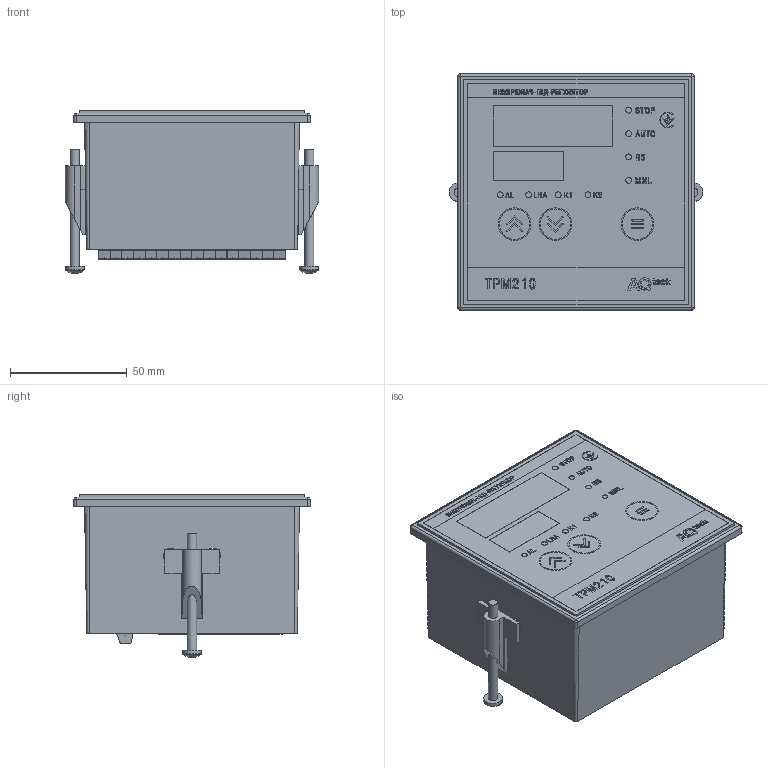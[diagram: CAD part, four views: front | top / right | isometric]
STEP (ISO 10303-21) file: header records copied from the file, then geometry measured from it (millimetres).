
FILE_DESCRIPTION (( 'STEP AP214' ), '1' );
FILE_NAME ('ﾒﾐﾌ210-ﾙ1.PP [U03].STEP', '2025-01-20T14:21:55', ( '' ), ( '' ), 'SwSTEP 2.0', 'SolidWorks 2019', '' );
FILE_SCHEMA (( 'AUTOMOTIVE_DESIGN' ));
Length unit declared in the file: millimetre
Products named in the file (8): Óù³ëüíþâà÷ (Ù1); Êð³ïëåííÿ ï³ä âèíò Ì4; AQ_TRM210_001F01M; Êîðïóñ ÒÐÌ210-Ù1; 2EDGKR-5.08-16; 2EDGKR-5.08; ﾒﾐﾌ210-ﾙ1.PP [U03]; M4 x 0.7 x 40 Type I Cross Recessed PHMS
Assembly tree (24 placements, depth 3):
  ﾒﾐﾌ210-ﾙ1.PP [U03]
    Êîðïóñ ÒÐÌ210-Ù1
    AQ_TRM210_001F01M
    Óù³ëüíþâà÷ (Ù1)
    2EDGKR-5.08-16
      2EDGKR-5.08  x16
    M4 x 0.7 x 40 Type I Cross Recessed PHMS  x2
    Êð³ïëåííÿ ï³ä âèíò Ì4  x2
Bounding box: 108.28 x 101 x 69.69 mm (x, y, z)
Volume: 105246.9 mm3; surface area: 125789.8 mm2
Topology: 321 solids, 321 shells, 5185 faces, 13383 edges, 8874 vertices
Faces by surface type: plane 3558, bspline 1345, cylinder 270, sphere 6, cone 4, torus 2
Full cylindrical faces by diameter (mm): 1.274 x1, 2.5 x16, 3.268 x2, 4 x2, 8 x2, 13 x6, 14 x3
Entity records: 192169 total; most frequent: CARTESIAN_POINT 41275, ORIENTED_EDGE 22964, DIRECTION 15263, EDGE_CURVE 11482, LINE 8549, VECTOR 8549, VERTEX_POINT 7665, EDGE_LOOP 4789
